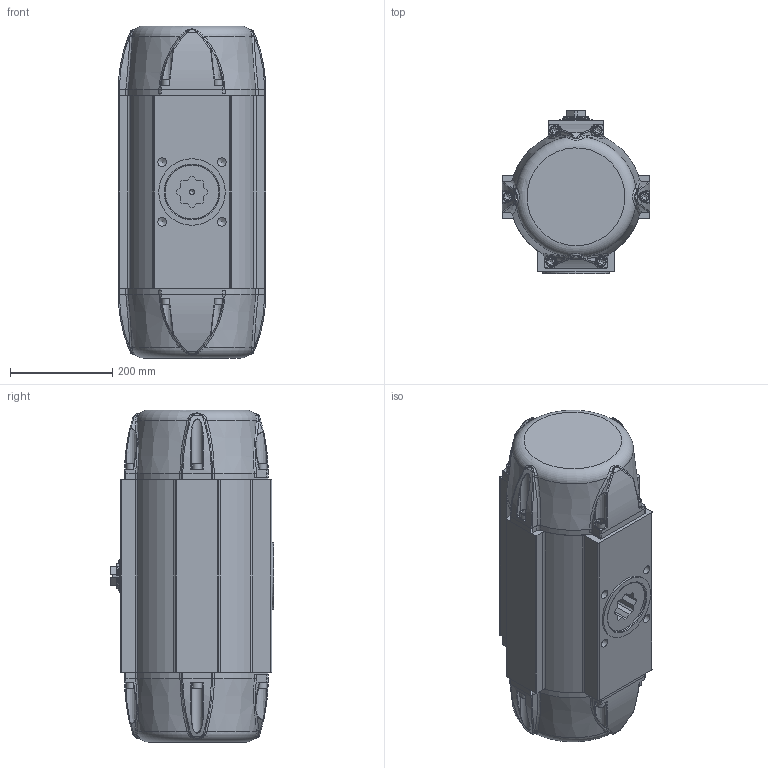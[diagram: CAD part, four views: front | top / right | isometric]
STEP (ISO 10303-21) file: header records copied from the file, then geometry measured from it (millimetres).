
FILE_DESCRIPTION((''),'2;1');
FILE_NAME('Y:\DOKUMENTATION ANTRIEBSPROGRAMM\AKTUELLES ANTRIEBSPROGRAMM\BR03_SAD_SAF_90°_Standard\STEP-Dateien\43\SAF 43.stp','2018-09-10T07:27:13',('mkl'),(''),'Autodesk Inventor 2013','Autodesk Inventor 2013','');
FILE_SCHEMA(('AUTOMOTIVE_DESIGN { 1 0 10303 214 1 1 1 1 }'));
Length unit declared in the file: millimetre
Products named in the file (1): ENG-073103_Shrinkwrap_1
Bounding box: 288 x 320 x 649 mm (x, y, z)
Surface area: 940631.8 mm2 (no closed solid volume)
Topology: 0 solids, 45 shells, 503 faces, 1715 edges, 1178 vertices
Faces by surface type: plane 168, cylinder 146, bspline 126, cone 44, torus 19
Full cylindrical faces by diameter (mm): 4.134 x2, 4.917 x5, 8.376 x2, 17.294 x4, 18 x12, 18.631 x2, 37 x1, 46.1 x1, 49.6 x1, 106 x1, 130 x1, 236 x1
Entity records: 23562 total; most frequent: CARTESIAN_POINT 9912, ORIENTED_EDGE 2496, DIRECTION 2343, EDGE_CURVE 1588, VERTEX_POINT 1141, AXIS2_PLACEMENT_3D 889, EDGE_LOOP 640, VECTOR 565
